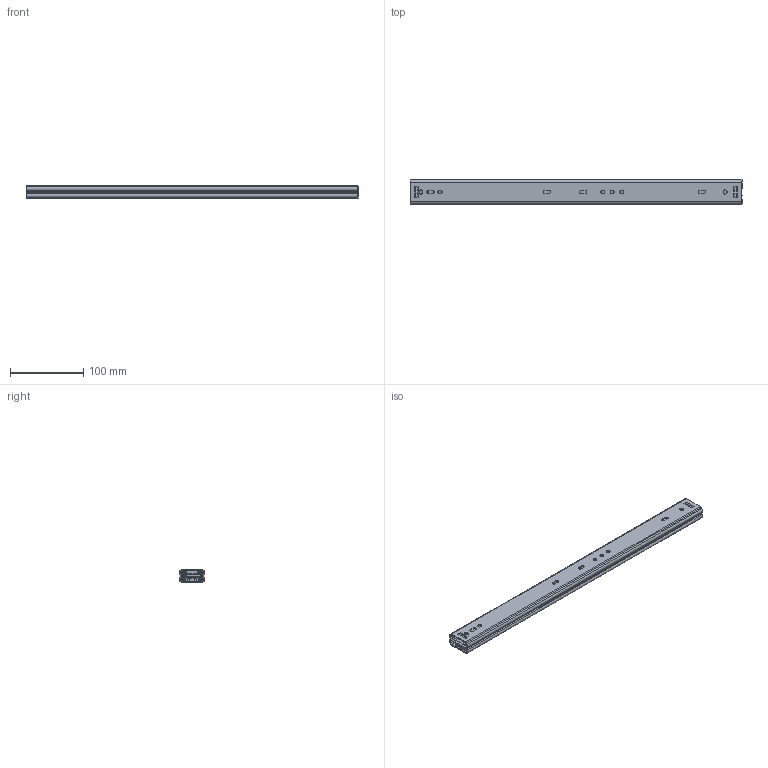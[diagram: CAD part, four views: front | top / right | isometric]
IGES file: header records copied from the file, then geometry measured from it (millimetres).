
Global section: file name: DR_L6-450; native system: Autodesk Inventor 2015; preprocessor: unknown; author: Administrator; date: 20171011.103724; units: millimetre
Bounding box: 454 x 35.23 x 19.14 mm (x, y, z)
Volume: 119606.3 mm3; surface area: 182775.8 mm2
Topology: 8 solids, 8 shells, 570 faces, 1430 edges, 988 vertices
Faces by surface type: bspline 570
